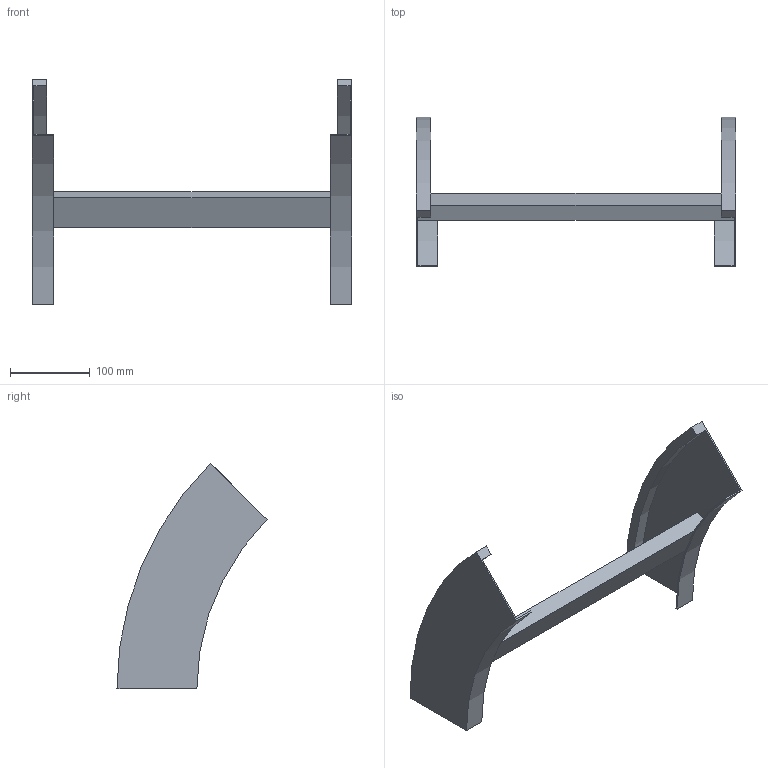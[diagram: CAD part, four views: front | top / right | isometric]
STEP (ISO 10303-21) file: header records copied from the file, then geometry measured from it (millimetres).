
FILE_DESCRIPTION (( 'STEP AP214' ), '1' );
FILE_NAME ('B2_34B3D400.step', '2025-02-21T14:52:08', ( '' ), ( '' ), 'SwSTEP 2.0', 'SolidWorks 2023', '' );
FILE_SCHEMA (( 'AUTOMOTIVE_DESIGN' ));
Length unit declared in the file: millimetre
Products named in the file (3): TRAVERSINO_400; B2_LONGH.DISCESA_45°_H100_R300; B2_34B3D400
Assembly tree (3 placements, depth 2):
  B2_34B3D400
    B2_LONGH.DISCESA_45°_H100_R300  x2
    TRAVERSINO_400
Bounding box: 400 x 187.87 x 282.84 mm (x, y, z)
Volume: 573183.8 mm3; surface area: 206903.9 mm2
Topology: 3 solids, 3 shells, 26 faces, 60 edges, 40 vertices
Faces by surface type: plane 18, cylinder 8
Entity records: 544 total; most frequent: DIRECTION 88, CARTESIAN_POINT 82, ORIENTED_EDGE 72, EDGE_CURVE 36, AXIS2_PLACEMENT_3D 30, LINE 28, VECTOR 28, VERTEX_POINT 24
